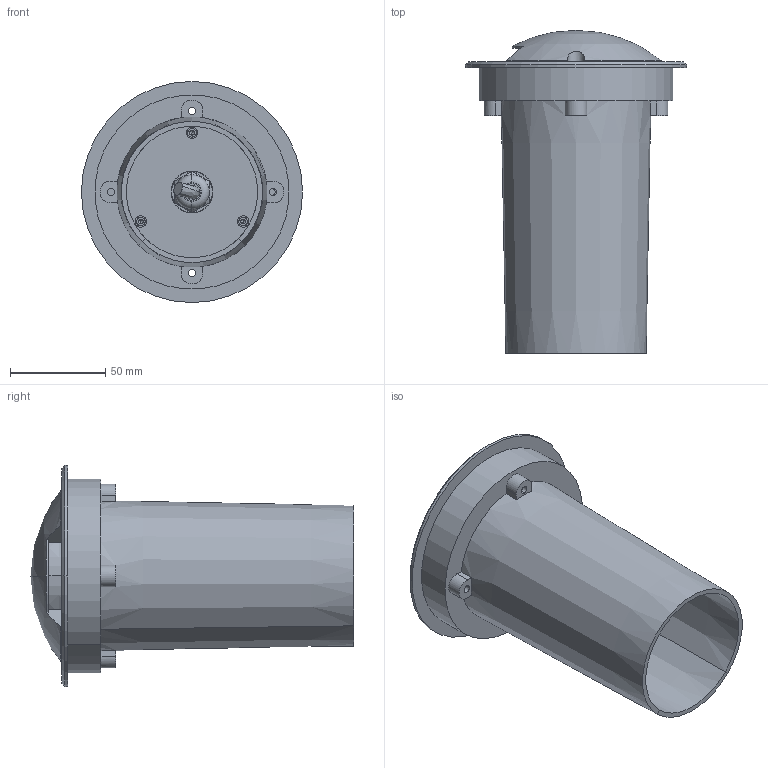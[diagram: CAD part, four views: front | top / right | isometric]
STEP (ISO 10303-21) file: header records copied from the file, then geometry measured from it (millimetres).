
FILE_DESCRIPTION((''),'2;1');
FILE_NAME('2CD-01KONG_ASM','2021-06-30T',('Administrator'),(''),'CREO PARAMETRIC BY PTC INC, 2015200','CREO PARAMETRIC BY PTC INC, 2015200','');
FILE_SCHEMA(('CONFIG_CONTROL_DESIGN'));
Length unit declared in the file: millimetre
Products named in the file (18): 2CD-F_17_2; F-S-T_35_2; PC_36_2; 2CD-JIZA; 2CD-GYB; 2CD-TUOGUANGJING; 2CD-YAPIAN; AL-2AD_O___2; AL-2AD___2; __2_2; __-__7_2; __1_2CD____2; PG9___ASM_2_ASM; 2CD-A; 2CD-B; 2CG-Y_ASM; 2AD_G_1; 2CD-01KONG_ASM
Assembly tree (17 placements, depth 3):
  2CD-01KONG_ASM
    2CD-F_17_2
    F-S-T_35_2
    PC_36_2
    2CD-JIZA
    2CD-GYB
    2CD-TUOGUANGJING
    2CD-YAPIAN
    AL-2AD_O___2
    AL-2AD___2
    PG9___ASM_2_ASM
      __2_2
      __-__7_2
      __1_2CD____2
    2CG-Y_ASM
      2CD-A
      2CD-B
    2AD_G_1
Bounding box: 116 x 169.5 x 116 mm (x, y, z)
Volume: 308694.9 mm3; surface area: 217376.4 mm2
Topology: 15 solids, 15 shells, 1179 faces, 3071 edges, 1986 vertices
Faces by surface type: plane 471, cylinder 310, cone 173, torus 81, extrusion 66, bspline 62, sphere 16
Entity records: 48675 total; most frequent: CARTESIAN_POINT 19552, ORIENTED_EDGE 6106, DIRECTION 5907, EDGE_CURVE 3053, AXIS2_PLACEMENT_3D 2250, VERTEX_POINT 1986, VECTOR 1407, LINE 1341
